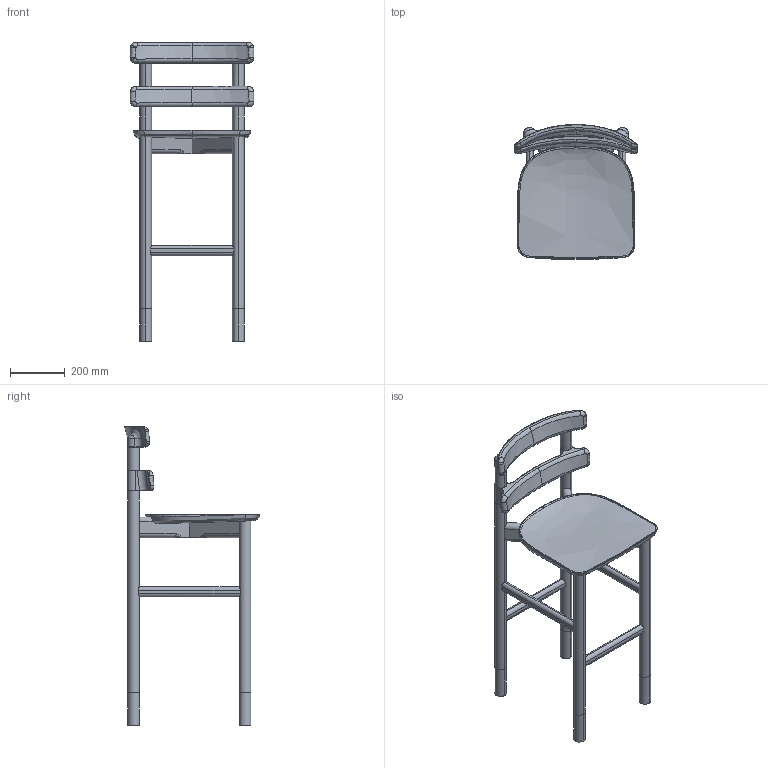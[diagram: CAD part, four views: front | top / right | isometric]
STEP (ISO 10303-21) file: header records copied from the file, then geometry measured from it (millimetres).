
FILE_DESCRIPTION(/* description */ (''),/* implementation_level */ '2;1');
FILE_NAME(/* name */ 'SISTA_tabouret_770',/* time_stamp */ '2026-06-03T11:21:39+02:00',/* author */ (''),/* organization */ (''),/* preprocessor_version */ 'ST-DEVELOPER v19.2',/* originating_system */ 'Rhino 8.31',/* authorisation */ '');
FILE_SCHEMA (('CONFIG_CONTROL_DESIGN'));
Length unit declared in the file: millimetre
Products named in the file (1): Document
Bounding box: 450 x 491.29 x 1090 mm (x, y, z)
Volume: 12471625.9 mm3; surface area: 1346220.9 mm2
Topology: 15 solids, 15 shells, 286 faces, 643 edges, 387 vertices
Faces by surface type: bspline 151, cylinder 85, plane 50
Entity records: 79497 total; most frequent: CARTESIAN_POINT 74242, ORIENTED_EDGE 1286, EDGE_CURVE 643, DIRECTION 537, B_SPLINE_CURVE_WITH_KNOTS 436, VERTEX_POINT 387, AXIS2_PLACEMENT_3D 336, ADVANCED_FACE 286
